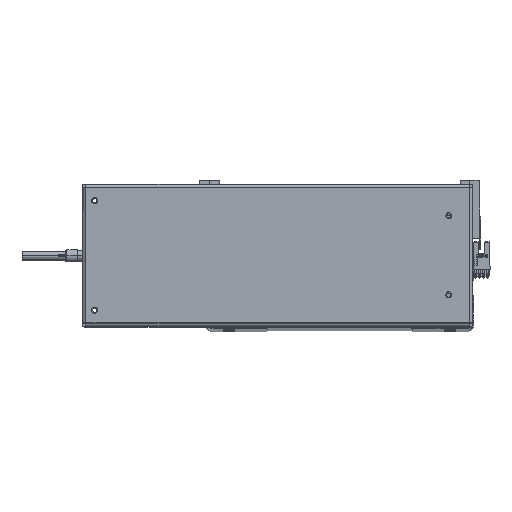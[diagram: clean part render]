
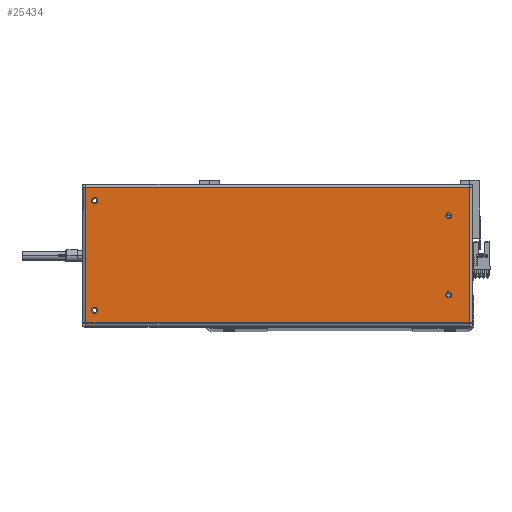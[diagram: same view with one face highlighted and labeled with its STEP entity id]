
A CAD part, top view. The second image highlights one B-rep face of the part: STEP entity #25434.
In plain terms, the highlighted planar face has unit normal (0, 0, 1).
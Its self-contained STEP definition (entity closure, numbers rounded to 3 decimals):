
#838 = EDGE_LOOP ( 'NONE', ( #39151, #19961, #30829, #3519 ) ) ;
#1513 = AXIS2_PLACEMENT_3D ( 'NONE', #39677, #39396, #19932 ) ;
#1837 = ORIENTED_EDGE ( 'NONE', *, *, #28128, .F. ) ;
#2799 = DIRECTION ( 'NONE',  ( 1., 0., 0. ) ) ;
#3310 = LINE ( 'NONE', #12652, #38616 ) ;
#3363 = DIRECTION ( 'NONE',  ( 0., 0., 1. ) ) ;
#3519 = ORIENTED_EDGE ( 'NONE', *, *, #40693, .T. ) ;
#3632 = DIRECTION ( 'NONE',  ( 0., 0., 1. ) ) ;
#4417 = CARTESIAN_POINT ( 'NONE',  ( -157.6, 55.6, 0. ) ) ;
#5090 = DIRECTION ( 'NONE',  ( 1., 0., 0. ) ) ;
#5668 = AXIS2_PLACEMENT_3D ( 'NONE', #40563, #37450, #15228 ) ;
#5744 = VERTEX_POINT ( 'NONE', #25796 ) ;
#6470 = DIRECTION ( 'NONE',  ( 1., 0., 0. ) ) ;
#7069 = CARTESIAN_POINT ( 'NONE',  ( -140.5, -32.5, 0. ) ) ;
#7107 = EDGE_CURVE ( 'NONE', #24937, #23762, #25707, .T. ) ;
#7354 = DIRECTION ( 'NONE',  ( 1., 0., 0. ) ) ;
#7420 = EDGE_CURVE ( 'NONE', #10675, #5744, #18652, .T. ) ;
#7423 = EDGE_CURVE ( 'NONE', #35432, #39682, #29180, .T. ) ;
#7818 = CARTESIAN_POINT ( 'NONE',  ( -140.5, -32.5, 0. ) ) ;
#8268 = EDGE_LOOP ( 'NONE', ( #32359, #38675 ) ) ;
#8531 = EDGE_LOOP ( 'NONE', ( #35361, #41411 ) ) ;
#8588 = AXIS2_PLACEMENT_3D ( 'NONE', #16160, #22582, #38669 ) ;
#10675 = VERTEX_POINT ( 'NONE', #17532 ) ;
#10918 = CIRCLE ( 'NONE', #14542, 2.5 ) ;
#10976 = FACE_BOUND ( 'NONE', #37037, .T. ) ;
#11350 = DIRECTION ( 'NONE',  ( 0., 0., 1. ) ) ;
#11669 = VECTOR ( 'NONE', #30453, 1000. ) ;
#12652 = CARTESIAN_POINT ( 'NONE',  ( 157.6, -55.6, 0. ) ) ;
#12840 = DIRECTION ( 'NONE',  ( 0., 0., 1. ) ) ;
#13749 = VERTEX_POINT ( 'NONE', #27075 ) ;
#14482 = CARTESIAN_POINT ( 'NONE',  ( -138., 32.5, 0. ) ) ;
#14542 = AXIS2_PLACEMENT_3D ( 'NONE', #21947, #31473, #41263 ) ;
#15228 = DIRECTION ( 'NONE',  ( 1., 0., 0. ) ) ;
#16052 = EDGE_CURVE ( 'NONE', #13749, #27986, #21150, .T. ) ;
#16160 = CARTESIAN_POINT ( 'NONE',  ( 157.7, 58.5, 0. ) ) ;
#16777 = CARTESIAN_POINT ( 'NONE',  ( -140.5, 32.5, 0. ) ) ;
#17053 = FACE_OUTER_BOUND ( 'NONE', #838, .T. ) ;
#17316 = EDGE_CURVE ( 'NONE', #39682, #35432, #10918, .T. ) ;
#17532 = CARTESIAN_POINT ( 'NONE',  ( 148., 45., 0. ) ) ;
#18508 = ORIENTED_EDGE ( 'NONE', *, *, #7423, .F. ) ;
#18652 = CIRCLE ( 'NONE', #31562, 2.5 ) ;
#19579 = CARTESIAN_POINT ( 'NONE',  ( 157.6, 55.6, 0. ) ) ;
#19691 = AXIS2_PLACEMENT_3D ( 'NONE', #16777, #3632, #6470 ) ;
#19932 = DIRECTION ( 'NONE',  ( 1., 0., 0. ) ) ;
#19961 = ORIENTED_EDGE ( 'NONE', *, *, #7107, .T. ) ;
#20539 = FACE_BOUND ( 'NONE', #8531, .T. ) ;
#20681 = LINE ( 'NONE', #22278, #22166 ) ;
#20796 = CIRCLE ( 'NONE', #1513, 2.5 ) ;
#20880 = EDGE_LOOP ( 'NONE', ( #18508, #28812 ) ) ;
#20933 = AXIS2_PLACEMENT_3D ( 'NONE', #38446, #12840, #2799 ) ;
#21150 = CIRCLE ( 'NONE', #20933, 2.5 ) ;
#21480 = VERTEX_POINT ( 'NONE', #19579 ) ;
#21947 = CARTESIAN_POINT ( 'NONE',  ( -140.5, 32.5, 0. ) ) ;
#22166 = VECTOR ( 'NONE', #28053, 1000. ) ;
#22278 = CARTESIAN_POINT ( 'NONE',  ( 157.7, 55.6, 0. ) ) ;
#22582 = DIRECTION ( 'NONE',  ( 0., 0., -1. ) ) ;
#23411 = CARTESIAN_POINT ( 'NONE',  ( -157.7, -55.6, 0. ) ) ;
#23762 = VERTEX_POINT ( 'NONE', #33026 ) ;
#24404 = AXIS2_PLACEMENT_3D ( 'NONE', #7069, #29580, #39359 ) ;
#24937 = VERTEX_POINT ( 'NONE', #37560 ) ;
#25434 = ADVANCED_FACE ( 'NONE', ( #34603, #37664, #20539, #10976, #17053 ), #32263, .F. ) ;
#25580 = AXIS2_PLACEMENT_3D ( 'NONE', #7818, #11350, #5090 ) ;
#25707 = LINE ( 'NONE', #23411, #35247 ) ;
#25713 = VERTEX_POINT ( 'NONE', #37226 ) ;
#25796 = CARTESIAN_POINT ( 'NONE',  ( 153., 45., 0. ) ) ;
#26438 = EDGE_CURVE ( 'NONE', #23762, #21480, #3310, .T. ) ;
#27075 = CARTESIAN_POINT ( 'NONE',  ( 153., -45., 0. ) ) ;
#27397 = CIRCLE ( 'NONE', #5668, 2.5 ) ;
#27986 = VERTEX_POINT ( 'NONE', #31171 ) ;
#28053 = DIRECTION ( 'NONE',  ( -1., 0., 0. ) ) ;
#28128 = EDGE_CURVE ( 'NONE', #5744, #10675, #27397, .T. ) ;
#28366 = DIRECTION ( 'NONE',  ( 0., 1., 0. ) ) ;
#28812 = ORIENTED_EDGE ( 'NONE', *, *, #17316, .F. ) ;
#29180 = CIRCLE ( 'NONE', #19691, 2.5 ) ;
#29251 = DIRECTION ( 'NONE',  ( 1., 0., 0. ) ) ;
#29580 = DIRECTION ( 'NONE',  ( 0., 0., 1. ) ) ;
#29604 = VERTEX_POINT ( 'NONE', #40638 ) ;
#29767 = CARTESIAN_POINT ( 'NONE',  ( -143., 32.5, 0. ) ) ;
#30363 = CARTESIAN_POINT ( 'NONE',  ( -138., -32.5, 0. ) ) ;
#30453 = DIRECTION ( 'NONE',  ( 0., -1., 0. ) ) ;
#30829 = ORIENTED_EDGE ( 'NONE', *, *, #26438, .T. ) ;
#31171 = CARTESIAN_POINT ( 'NONE',  ( 148., -45., 0. ) ) ;
#31473 = DIRECTION ( 'NONE',  ( 0., 0., 1. ) ) ;
#31562 = AXIS2_PLACEMENT_3D ( 'NONE', #39177, #3363, #29251 ) ;
#32263 = PLANE ( 'NONE',  #8588 ) ;
#32359 = ORIENTED_EDGE ( 'NONE', *, *, #33479, .F. ) ;
#32474 = EDGE_CURVE ( 'NONE', #27986, #13749, #20796, .T. ) ;
#32803 = CIRCLE ( 'NONE', #24404, 2.5 ) ;
#33026 = CARTESIAN_POINT ( 'NONE',  ( 157.6, -55.6, 0. ) ) ;
#33479 = EDGE_CURVE ( 'NONE', #39947, #29604, #35364, .T. ) ;
#33763 = ORIENTED_EDGE ( 'NONE', *, *, #7420, .F. ) ;
#34603 = FACE_BOUND ( 'NONE', #8268, .T. ) ;
#35247 = VECTOR ( 'NONE', #7354, 1000. ) ;
#35361 = ORIENTED_EDGE ( 'NONE', *, *, #16052, .F. ) ;
#35364 = CIRCLE ( 'NONE', #25580, 2.5 ) ;
#35432 = VERTEX_POINT ( 'NONE', #14482 ) ;
#37037 = EDGE_LOOP ( 'NONE', ( #1837, #33763 ) ) ;
#37226 = CARTESIAN_POINT ( 'NONE',  ( -157.6, 55.6, 0. ) ) ;
#37450 = DIRECTION ( 'NONE',  ( 0., 0., 1. ) ) ;
#37560 = CARTESIAN_POINT ( 'NONE',  ( -157.6, -55.6, 0. ) ) ;
#37664 = FACE_BOUND ( 'NONE', #20880, .T. ) ;
#38446 = CARTESIAN_POINT ( 'NONE',  ( 150.5, -45., 0. ) ) ;
#38616 = VECTOR ( 'NONE', #28366, 1000. ) ;
#38669 = DIRECTION ( 'NONE',  ( -1., 0., 0. ) ) ;
#38675 = ORIENTED_EDGE ( 'NONE', *, *, #39832, .F. ) ;
#39151 = ORIENTED_EDGE ( 'NONE', *, *, #40377, .T. ) ;
#39177 = CARTESIAN_POINT ( 'NONE',  ( 150.5, 45., 0. ) ) ;
#39359 = DIRECTION ( 'NONE',  ( 1., 0., 0. ) ) ;
#39384 = LINE ( 'NONE', #4417, #11669 ) ;
#39396 = DIRECTION ( 'NONE',  ( 0., 0., 1. ) ) ;
#39677 = CARTESIAN_POINT ( 'NONE',  ( 150.5, -45., 0. ) ) ;
#39682 = VERTEX_POINT ( 'NONE', #29767 ) ;
#39832 = EDGE_CURVE ( 'NONE', #29604, #39947, #32803, .T. ) ;
#39947 = VERTEX_POINT ( 'NONE', #30363 ) ;
#40377 = EDGE_CURVE ( 'NONE', #25713, #24937, #39384, .T. ) ;
#40563 = CARTESIAN_POINT ( 'NONE',  ( 150.5, 45., 0. ) ) ;
#40638 = CARTESIAN_POINT ( 'NONE',  ( -143., -32.5, 0. ) ) ;
#40693 = EDGE_CURVE ( 'NONE', #21480, #25713, #20681, .T. ) ;
#41263 = DIRECTION ( 'NONE',  ( 1., 0., 0. ) ) ;
#41411 = ORIENTED_EDGE ( 'NONE', *, *, #32474, .F. ) ;
